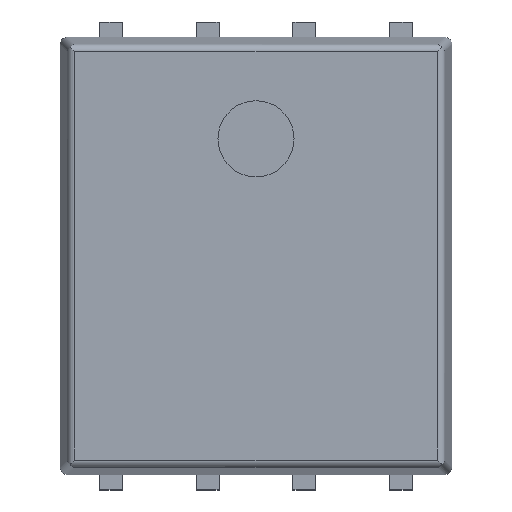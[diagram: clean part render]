
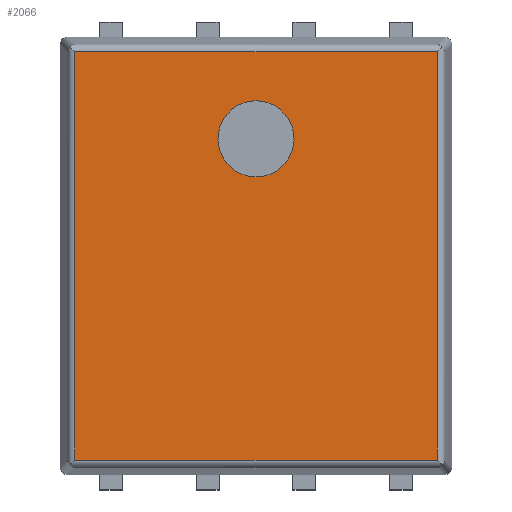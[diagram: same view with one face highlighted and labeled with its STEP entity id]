
A CAD part, top view. The second image highlights one B-rep face of the part: STEP entity #2066.
In plain terms, the highlighted planar face has unit normal (0, 0, 1).
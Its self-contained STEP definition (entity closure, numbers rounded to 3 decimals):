
#51=CIRCLE('',#2236,0.5);
#535=ORIENTED_EDGE('',*,*,#887,.T.);
#536=ORIENTED_EDGE('',*,*,#888,.T.);
#537=ORIENTED_EDGE('',*,*,#889,.T.);
#538=ORIENTED_EDGE('',*,*,#890,.T.);
#539=ORIENTED_EDGE('',*,*,#891,.T.);
#887=EDGE_CURVE('',#1101,#1101,#51,.T.);
#888=EDGE_CURVE('',#1102,#1103,#1371,.F.);
#889=EDGE_CURVE('',#1103,#1104,#1372,.F.);
#890=EDGE_CURVE('',#1104,#1105,#1373,.F.);
#891=EDGE_CURVE('',#1105,#1102,#1374,.F.);
#1101=VERTEX_POINT('',#3332);
#1102=VERTEX_POINT('',#3334);
#1103=VERTEX_POINT('',#3335);
#1104=VERTEX_POINT('',#3337);
#1105=VERTEX_POINT('',#3339);
#1371=LINE('',#3333,#1639);
#1372=LINE('',#3336,#1640);
#1373=LINE('',#3338,#1641);
#1374=LINE('',#3340,#1642);
#1639=VECTOR('',#2715,1000.);
#1640=VECTOR('',#2716,1000.);
#1641=VECTOR('',#2717,1000.);
#1642=VECTOR('',#2718,1000.);
#1745=EDGE_LOOP('',(#535));
#1746=EDGE_LOOP('',(#536,#537,#538,#539));
#1857=FACE_BOUND('',#1745,.T.);
#1858=FACE_BOUND('',#1746,.T.);
#1969=PLANE('',#2235);
#2066=ADVANCED_FACE('',(#1857,#1858),#1969,.F.);
#2235=AXIS2_PLACEMENT_3D('',#3330,#2711,#2712);
#2236=AXIS2_PLACEMENT_3D('',#3331,#2713,#2714);
#2711=DIRECTION('',(0.,0.,-1.));
#2712=DIRECTION('',(-1.,0.,0.));
#2713=DIRECTION('',(0.,0.,-1.));
#2714=DIRECTION('',(0.,1.,0.));
#2715=DIRECTION('',(0.,1.,0.));
#2716=DIRECTION('',(-1.,0.,0.));
#2717=DIRECTION('',(0.,-1.,0.));
#2718=DIRECTION('',(1.,0.,0.));
#3330=CARTESIAN_POINT('',(0.,0.,0.75));
#3331=CARTESIAN_POINT('',(0.,1.538,0.75));
#3332=CARTESIAN_POINT('',(0.,2.038,0.75));
#3333=CARTESIAN_POINT('',(-2.383,-2.671,0.75));
#3334=CARTESIAN_POINT('',(-2.383,2.683,0.75));
#3335=CARTESIAN_POINT('',(-2.383,-2.683,0.75));
#3336=CARTESIAN_POINT('',(2.371,-2.683,0.75));
#3337=CARTESIAN_POINT('',(2.383,-2.683,0.75));
#3338=CARTESIAN_POINT('',(2.383,2.671,0.75));
#3339=CARTESIAN_POINT('',(2.383,2.683,0.75));
#3340=CARTESIAN_POINT('',(-2.371,2.683,0.75));
